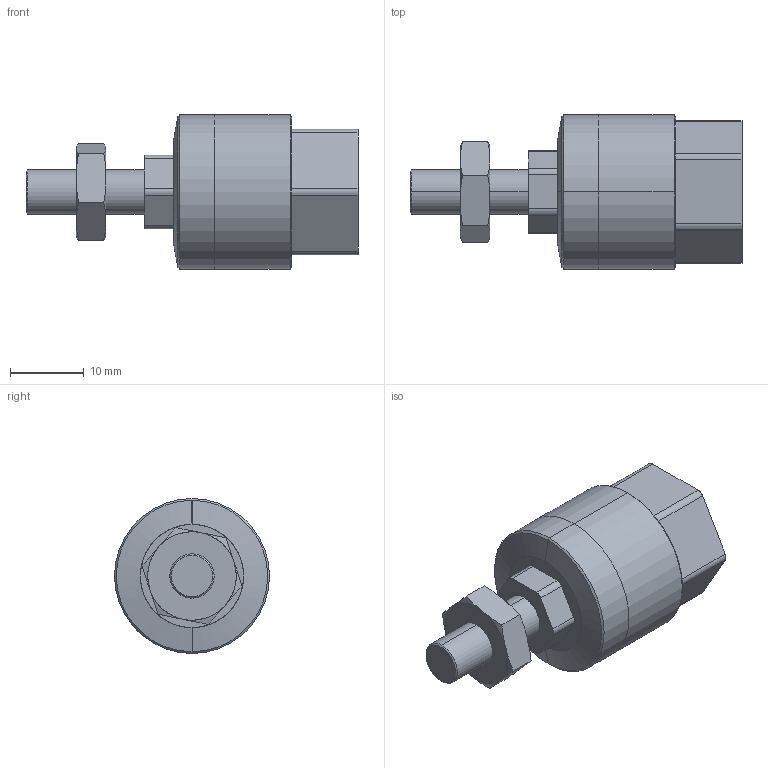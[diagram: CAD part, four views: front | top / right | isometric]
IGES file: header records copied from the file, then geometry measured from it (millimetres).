
Start section: SolidWorks IGES file using analytic representation for surfaces
Global section: file name: D:\MI\新增資料夾\FC\FCM6-1.IGS; native system: SolidWorks 2013; preprocessor: SolidWorks 2013; author: Sam Lin; date: 160323.114000; units: millimetre
Bounding box: 45 x 21 x 21 mm (x, y, z)
Surface area: 3358.5 mm2 (no closed solid volume)
Topology: 0 solids, 0 shells, 69 faces, 832 edges, 830 vertices
Faces by surface type: bspline 37, revolution 32
